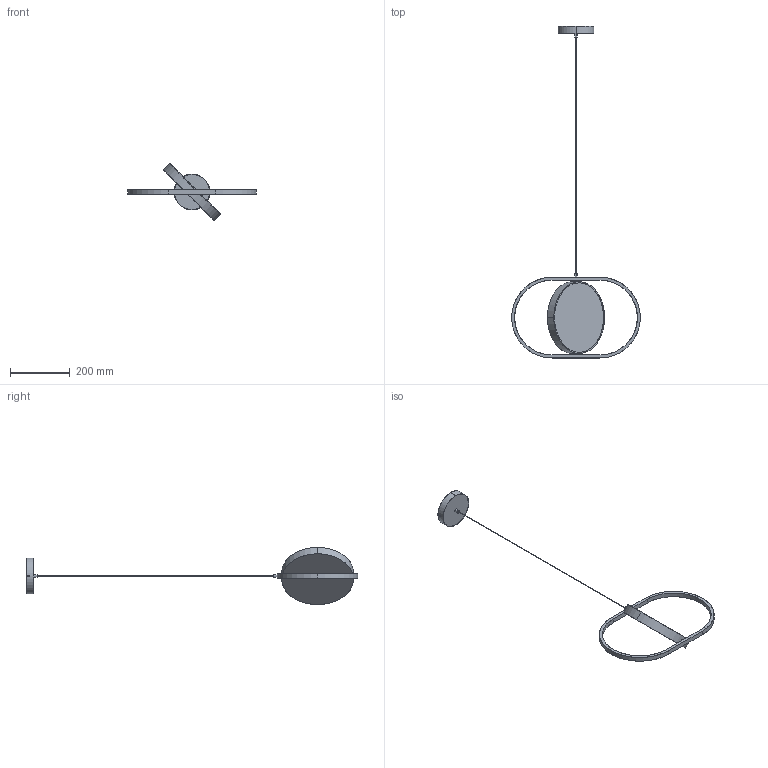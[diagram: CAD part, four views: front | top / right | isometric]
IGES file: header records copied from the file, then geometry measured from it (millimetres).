
Start section: SolidWorks IGES file using analytic representation for surfaces
Global section: file name: F:\燠隴矨\3D\2025-8\KUU Pendant Light.IGS,15; native system: HSolidWorks 2022; preprocessor: SolidWorks 2022; author: MyPC; date: 250830.143941; units: millimetre
Bounding box: 430 x 1109 x 190.92 mm (x, y, z)
Surface area: 219009.9 mm2 (no closed solid volume)
Topology: 0 solids, 0 shells, 54 faces, 1432 edges, 1432 vertices
Faces by surface type: revolution 28, bspline 26
